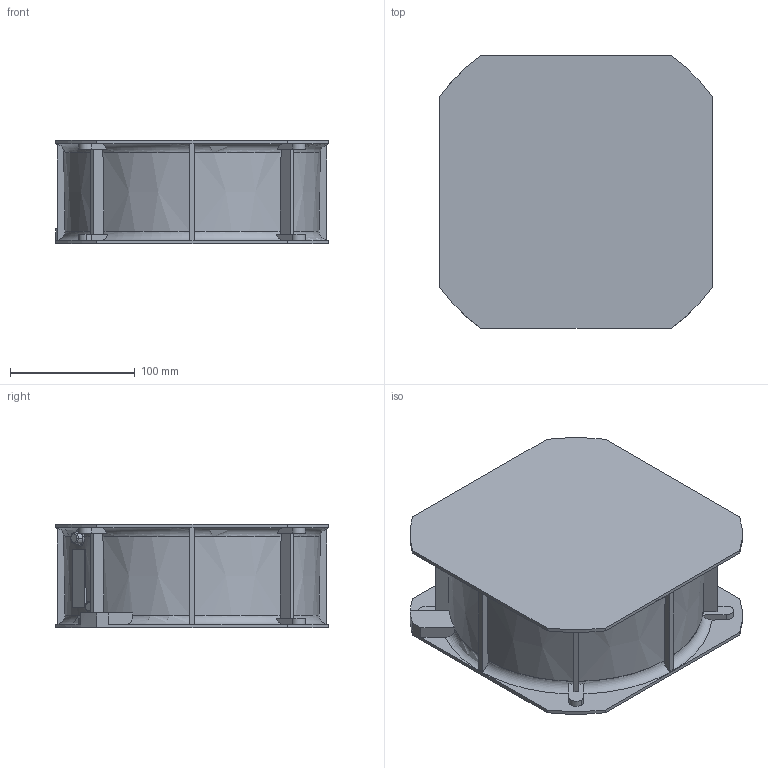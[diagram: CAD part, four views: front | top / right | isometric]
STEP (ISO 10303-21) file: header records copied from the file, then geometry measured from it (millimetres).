
FILE_DESCRIPTION (( 'STEP AP214' ), '1' );
FILE_NAME ('C22Sxx.STEP', '2023-11-27T11:22:21', ( '' ), ( '' ), 'SwSTEP 2.0', 'SolidWorks 2022', '' );
FILE_SCHEMA (( 'AUTOMOTIVE_DESIGN' ));
Length unit declared in the file: millimetre
Products named in the file (1): C22Sxx
Bounding box: 218.2 x 218.2 x 83 mm (x, y, z)
Volume: 2847121.4 mm3; surface area: 179029 mm2
Topology: 1 solids, 1 shells, 144 faces, 417 edges, 275 vertices
Faces by surface type: plane 76, torus 25, cylinder 21, cone 15, bspline 7
Entity records: 6385 total; most frequent: CARTESIAN_POINT 2743, ORIENTED_EDGE 832, DIRECTION 679, EDGE_CURVE 416, VERTEX_POINT 275, AXIS2_PLACEMENT_3D 263, LINE 153, VECTOR 153
